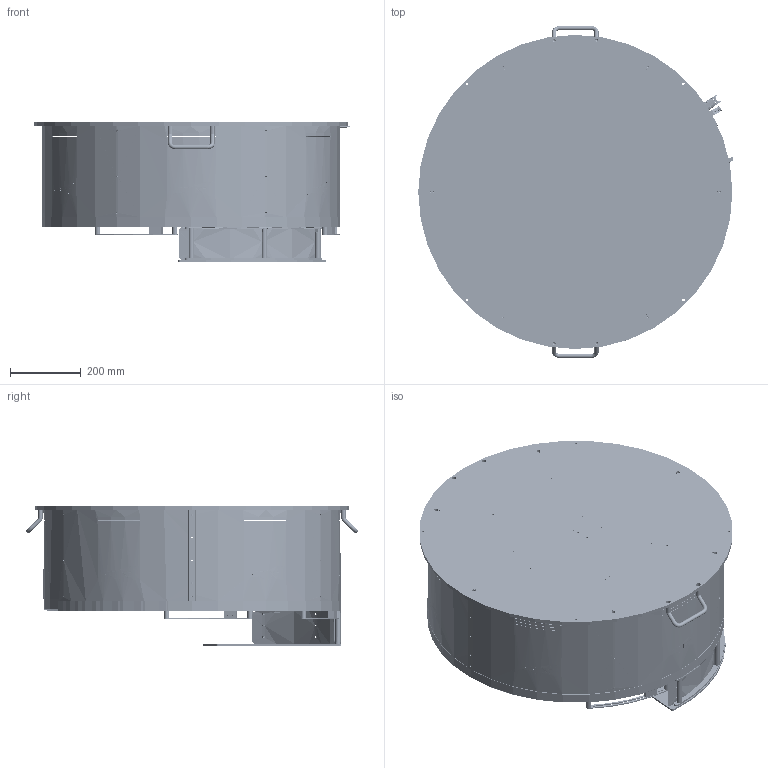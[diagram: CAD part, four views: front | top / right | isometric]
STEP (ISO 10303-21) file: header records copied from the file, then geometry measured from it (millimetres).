
FILE_DESCRIPTION (( 'STEP AP214' ), '1' );
FILE_NAME ('GM000118_FB800CC V2.2.STEP', '2025-12-03T15:45:42', ( '' ), ( '' ), 'SwSTEP 2.0', 'SolidWorks 2023', '' );
FILE_SCHEMA (( 'AUTOMOTIVE_DESIGN' ));
Length unit declared in the file: millimetre
Products named in the file (90): PD003222; CE000005; PD001062_003; PD000709; CM000021; CE000463; PD001640; GM000442; CM000686_001; CE000420; PD000043; CM000099; PD006081; CM000424; PD005626; Copia di 43025-0600^CE000461; Copia di Guaina^CE000461; CE000013; PD006084; PD001062_001; PD001426; PD006118; CM000015_001; PD001356; Copia di Guaina^CE000463; PD001119; CE000328; CM000920; CM000374; Copia di Cavo line^CE000322; PD001572; Copia di 2 - Copia^CE000322; PD003221; PD001087; Copia di CE000325^CE000461; CE000418; Copia di 39-01-2025^CE000328; PD006074; CM000008_001; CE000316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
Assembly tree (123 placements, depth 3):
  CM000920
  GM000118_FB800CC V2.2
    CM000015  x2
      CM000015_001
      CM000015_002
    CM000424
    CM000099
    CE000327
      Copia di CE000327^CE000327
      Copia di 39-01-2025^CE000327
    CE000326
      Copia di Led RDY_FLT^CE000326
      Copia di 39-01-2045^CE000326
    CE000039
    CE000321
    CE000322
      Copia di 1^CE000322
      Copia di 2 - Copia^CE000322  x4
      Copia di Cavo line^CE000322
    CE000319
      Copia di 39-01-2025^CE000319
    CE000328
      Copia di 39-01-2025^CE000328
    CE000461
      Copia di CE000325^CE000461
      Copia di 43025-0600^CE000461
      Copia di Guaina^CE000461
    CE000463
      Copia di connector_a-ds_25_pp-f^CE000463
      Copia di Connettore te 2 poli - Copia^CE000463
      Copia di 39-01-2025^CE000463
      Copia di 43025-1600^CE000463
      Copia di Guaina^CE000463
    PD001086
    CM000001  x2
    PD003222  x6
    PD001640
    PD001356
    PD005625  x2
    PD005626  x2
    PD001062
      PD001062_001
      PD001062_002
      PD001062_003
    CM000374  x4
    PD001063
    PD000043  x4
    PD001119  x2
    PD001123  x2
    PD001426
    PD001428
    PD006084
    PD006081
    PD006074  x3
    PD001087
    PD001101
    PD000709
    PD001360_FB800
    CE000007
    CE000013  x2
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Bounding box: 893.79 x 940.65 x 394.5 mm (x, y, z)
Volume: 14768756.2 mm3; surface area: 5262863 mm2
Topology: 143 solids, 162 shells, 15501 faces, 41392 edges, 26584 vertices
Faces by surface type: plane 7144, cylinder 4474, bspline 2187, cone 1293, torus 338, sphere 65
Entity records: 666478 total; most frequent: CARTESIAN_POINT 327315, ORIENTED_EDGE 75222, DIRECTION 62013, EDGE_CURVE 37813, VERTEX_POINT 24591, AXIS2_PLACEMENT_3D 22108, LINE 17797, VECTOR 17797
